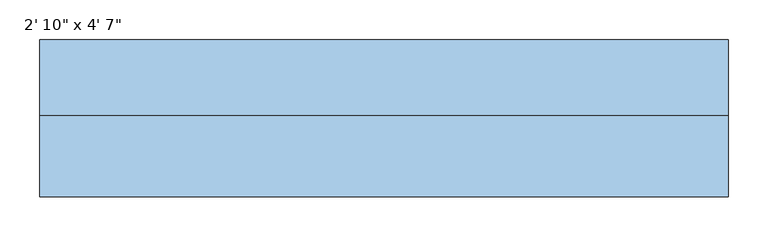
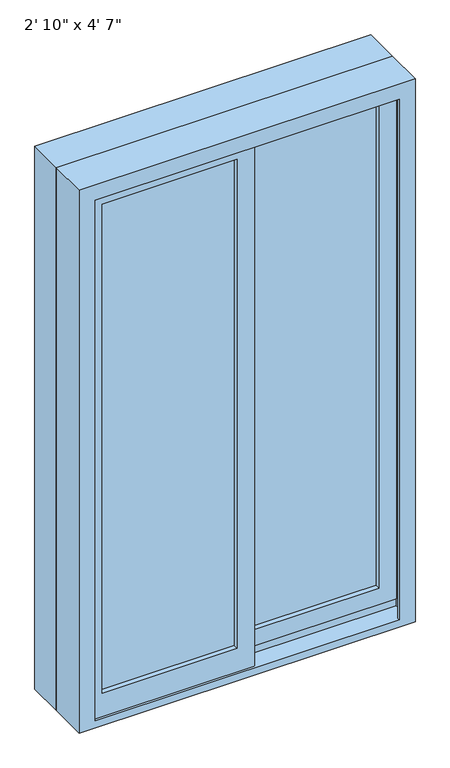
"""IFC4 building model written with IfcOpenShell, lengths in millimetres: window geometry."""

from ifc_helpers import new_model, si_unit, frame, origin, place, context, project, spatial, polyline, outline, extrude, faceted_brep, source, transform, mapped, element, save


def window_23c269b0(model_context):
    return source(origin(), model_context, "Body", "SolidModel", [
        extrude(outline(polyline([(933.45, 22.225), (2368.55, 22.225), (2368.55, -412.75), (933.45, -412.75), (933.45, 22.225)]), holes=[polyline([(2324.1, -368.3), (2324.1, -22.225), (996.95, -22.225), (996.95, -368.3), (2324.1, -368.3)])]), frame((0.0, -97.79, 0.0), z_axis=(0.0, 1.0, 0.0), x_axis=(0.0, 0.0, 1.0)), (0.0, 0.0, 1.0), 44.45),
        extrude(outline(polyline([(952.5, -22.225), (952.5, 412.75), (2368.55, 412.75), (2368.55, -22.225), (952.5, -22.225)]), holes=[polyline([(996.95, 368.3), (996.95, 22.225), (2324.1, 22.225), (2324.1, 368.3), (996.95, 368.3)])]), frame((0.0, -53.34, 0.0), z_axis=(0.0, 1.0, 0.0), x_axis=(0.0, 0.0, 1.0)), (0.0, 0.0, 1.0), 44.45),
        faceted_brep([(-431.8, -2.54, 914.4), (431.8, -2.54, 914.4), (431.8, -104.14, 914.4), (-431.8, -104.14, 914.4), (-390.8778905, -104.14, 2346.6778905), (-390.8778905, -104.14, 933.45), (-390.8778905, -97.79, 933.45), (-390.8778905, -97.79, 2346.6778905), (-412.75, -97.79, 933.45), (-412.75, -97.79, 2368.55), (412.75, -97.79, 2368.55), (412.75, -97.79, 933.45), (390.8778905, -97.79, 933.45), (390.8778905, -97.79, 2346.6778905), (-412.75, -53.34, 933.45), (-412.75, -53.34, 952.5), (-412.75, -8.89, 952.5), (-412.75, -8.89, 933.45), (-412.75, -2.54, 933.45), (-412.75, -2.54, 2368.55), (-431.8, -2.54, 2387.6), (431.8, -2.54, 2387.6), (412.75, -2.54, 2368.55), (412.75, -2.54, 933.45), (-431.8, -104.14, 2387.6), (431.8, -104.14, 2387.6), (390.8778905, -104.14, 2346.6778905), (390.8778905, -104.14, 933.45), (412.75, -8.89, 933.45), (412.75, -8.89, 952.5), (412.75, -53.34, 952.5), (412.75, -53.34, 933.45)], [[[0, 1, 2, 3]], [[4, 5, 6, 7]], [[7, 6, 8, 9, 10, 11, 12, 13]], [[9, 8, 14, 15, 16, 17, 18, 19]], [[0, 20, 21, 1], [22, 19, 18, 23]], [[24, 20, 0, 3]], [[2, 25, 24, 3], [4, 26, 27, 5]], [[7, 13, 26, 4]], [[9, 19, 22, 10]], [[20, 24, 25, 21]], [[13, 12, 27, 26]], [[22, 23, 28, 29, 30, 31, 11, 10]], [[21, 25, 2, 1]], [[27, 12, 11, 31, 14, 8, 6, 5]], [[31, 30, 15, 14]], [[30, 29, 16, 15]], [[29, 28, 17, 16]], [[18, 17, 28, 23]]]),
        extrude(outline(polyline([(2387.6, 431.8), (2387.6, -431.8), (914.4, -431.8), (914.4, 431.8), (2387.6, 431.8)]), holes=[polyline([(2368.55, -412.75), (2368.55, 412.75), (933.45, 412.75), (933.45, -412.75), (2368.55, -412.75)])]), frame((0.0, -2.54, 0.0), z_axis=(0.0, 1.0, 0.0), x_axis=(0.0, 0.0, 1.0)), (0.0, 0.0, 1.0), 95.25),
        extrude(outline(polyline([(368.3, -40.64), (22.225, -40.64), (22.225, -34.29), (368.3, -34.29), (368.3, -40.64)])), frame((0.0, 0.0, 996.95), z_axis=(0.0, 0.0, 1.0), x_axis=(1.0, 0.0, 0.0)), (0.0, 0.0, 1.0), 1327.15),
        extrude(outline(polyline([(368.3, -27.94), (22.225, -27.94), (22.225, -21.59), (368.3, -21.59), (368.3, -27.94)])), frame((0.0, 0.0, 996.95), z_axis=(0.0, 0.0, 1.0), x_axis=(1.0, 0.0, 0.0)), (0.0, 0.0, 1.0), 1327.15),
        extrude(outline(polyline([(-22.225, -85.09), (-368.3, -85.09), (-368.3, -78.74), (-22.225, -78.74), (-22.225, -85.09)])), frame((0.0, 0.0, 996.95), z_axis=(0.0, 0.0, 1.0), x_axis=(1.0, 0.0, 0.0)), (0.0, 0.0, 1.0), 1327.15),
        extrude(outline(polyline([(-22.225, -72.39), (-368.3, -72.39), (-368.3, -66.04), (-22.225, -66.04), (-22.225, -72.39)])), frame((0.0, 0.0, 996.95), z_axis=(0.0, 0.0, 1.0), x_axis=(1.0, 0.0, 0.0)), (0.0, 0.0, 1.0), 1327.15),
    ])


if __name__ == "__main__":
    model = new_model("IFC4")
    model_context = context("Model", 3, world=origin())
    ifc_project = project(units=[si_unit("LENGTHUNIT", "METRE", prefix="MILLI")], contexts=[model_context])
    site = spatial("IfcSite", under=ifc_project)
    building = spatial("IfcBuilding", under=site)
    placement = place(None, origin())
    window_shape = window_23c269b0(model_context)
    element("IfcWindow", 1, ObjectType="Planitar-Sliding-Double : 2' 10\" x 4' 7\"", at=placement, inside=building, context=model_context, shape_type="MappedRepresentation", body=[
        mapped(window_shape, transform((0.0, 0.0, 0.0), x_axis=(1.0, 0.0, 0.0), y_axis=(0.0, 1.0, 0.0), z_axis=(0.0, 0.0, 1.0))),
    ])
    save(model, "model.ifc")
